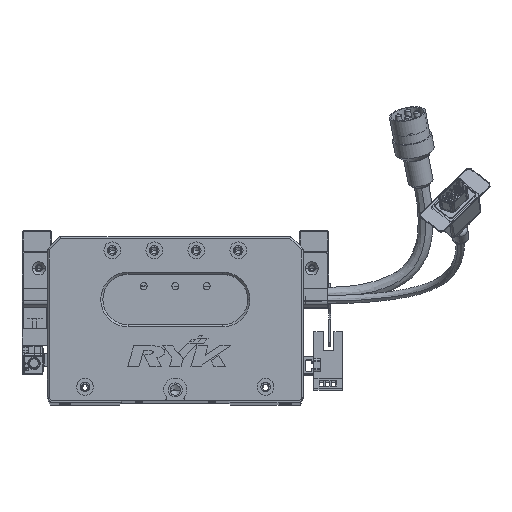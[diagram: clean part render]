
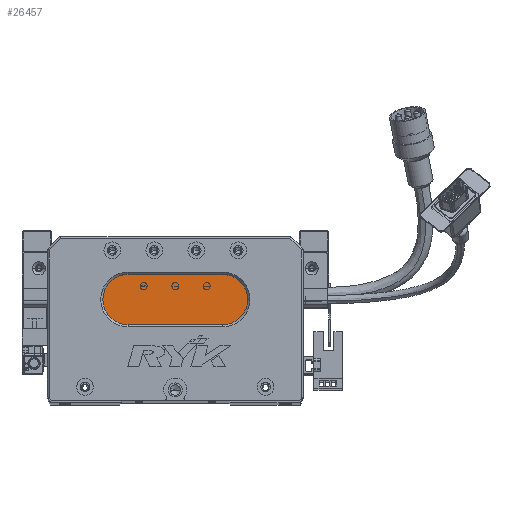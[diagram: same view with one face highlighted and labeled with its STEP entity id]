
A CAD part, top view. The second image highlights one B-rep face of the part: STEP entity #26457.
In plain terms, the highlighted planar face has unit normal (0, 0, 1) as drawn and (0, 0, -1) by its records, which use the part's own axes.
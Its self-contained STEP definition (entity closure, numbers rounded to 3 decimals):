
#370 = AXIS2_PLACEMENT_3D ( 'NONE', #72717, #7175, #30505 ) ;
#1392 = VERTEX_POINT ( 'NONE', #4715 ) ;
#2388 = FACE_OUTER_BOUND ( 'NONE', #44344, .T. ) ;
#4715 = CARTESIAN_POINT ( 'NONE',  ( 83.5, 36., 13. ) ) ;
#6528 = EDGE_CURVE ( 'NONE', #75458, #1392, #71836, .T. ) ;
#7175 = DIRECTION ( 'NONE',  ( 0., 0., -1. ) ) ;
#8136 = CARTESIAN_POINT ( 'NONE',  ( 38.5, 48., 13. ) ) ;
#8857 = CARTESIAN_POINT ( 'NONE',  ( 83.5, 60., 13. ) ) ;
#10137 = ORIENTED_EDGE ( 'NONE', *, *, #41690, .T. ) ;
#19902 = VECTOR ( 'NONE', #69987, 1000. ) ;
#20563 = CIRCLE ( 'NONE', #44527, 12. ) ;
#21886 = CARTESIAN_POINT ( 'NONE',  ( 83.5, 60., 13. ) ) ;
#24930 = VERTEX_POINT ( 'NONE', #26964 ) ;
#25691 = DIRECTION ( 'NONE',  ( -1., 0., 0. ) ) ;
#26457 = ADVANCED_FACE ( 'NONE', ( #2388 ), #55682, .T. ) ;
#26964 = CARTESIAN_POINT ( 'NONE',  ( 26.5, 48., 13. ) ) ;
#29235 = LINE ( 'NONE', #62133, #74671 ) ;
#29369 = ORIENTED_EDGE ( 'NONE', *, *, #6528, .T. ) ;
#30505 = DIRECTION ( 'NONE',  ( -1., 0., 0. ) ) ;
#31096 = DIRECTION ( 'NONE',  ( 0., 0., -1. ) ) ;
#32053 = ORIENTED_EDGE ( 'NONE', *, *, #35756, .T. ) ;
#35756 = EDGE_CURVE ( 'NONE', #1392, #41907, #29235, .T. ) ;
#37046 = CARTESIAN_POINT ( 'NONE',  ( 38.5, 48., 13. ) ) ;
#37478 = DIRECTION ( 'NONE',  ( -1., 0., 0. ) ) ;
#38454 = CIRCLE ( 'NONE', #47811, 12. ) ;
#39369 = CARTESIAN_POINT ( 'NONE',  ( 38.5, 36., 13. ) ) ;
#41690 = EDGE_CURVE ( 'NONE', #41907, #24930, #38454, .T. ) ;
#41907 = VERTEX_POINT ( 'NONE', #39369 ) ;
#43420 = DIRECTION ( 'NONE',  ( 0., 0., -1. ) ) ;
#44344 = EDGE_LOOP ( 'NONE', ( #29369, #32053, #10137, #75130, #53120 ) ) ;
#44527 = AXIS2_PLACEMENT_3D ( 'NONE', #8136, #43420, #66484 ) ;
#45375 = EDGE_CURVE ( 'NONE', #24930, #68367, #20563, .T. ) ;
#47811 = AXIS2_PLACEMENT_3D ( 'NONE', #37046, #31096, #25691 ) ;
#53120 = ORIENTED_EDGE ( 'NONE', *, *, #70016, .T. ) ;
#54212 = AXIS2_PLACEMENT_3D ( 'NONE', #54907, #66814, #37478 ) ;
#54907 = CARTESIAN_POINT ( 'NONE',  ( 83.5, 48., 13. ) ) ;
#55682 = PLANE ( 'NONE',  #54212 ) ;
#62133 = CARTESIAN_POINT ( 'NONE',  ( 83.5, 36., 13. ) ) ;
#64052 = CARTESIAN_POINT ( 'NONE',  ( 38.5, 60., 13. ) ) ;
#66484 = DIRECTION ( 'NONE',  ( -1., 0., 0. ) ) ;
#66814 = DIRECTION ( 'NONE',  ( 0., 0., -1. ) ) ;
#67142 = LINE ( 'NONE', #21886, #19902 ) ;
#68274 = DIRECTION ( 'NONE',  ( -1., 0., 0. ) ) ;
#68367 = VERTEX_POINT ( 'NONE', #64052 ) ;
#69987 = DIRECTION ( 'NONE',  ( 1., 0., 0. ) ) ;
#70016 = EDGE_CURVE ( 'NONE', #68367, #75458, #67142, .T. ) ;
#71836 = CIRCLE ( 'NONE', #370, 12. ) ;
#72717 = CARTESIAN_POINT ( 'NONE',  ( 83.5, 48., 13. ) ) ;
#74671 = VECTOR ( 'NONE', #68274, 1000. ) ;
#75130 = ORIENTED_EDGE ( 'NONE', *, *, #45375, .T. ) ;
#75458 = VERTEX_POINT ( 'NONE', #8857 ) ;
